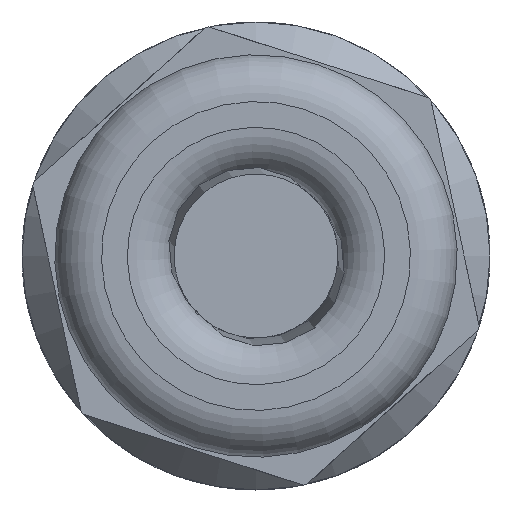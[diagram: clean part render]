
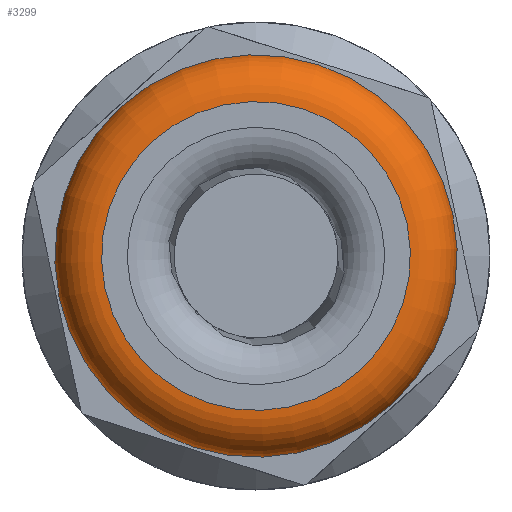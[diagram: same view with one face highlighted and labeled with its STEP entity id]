
A CAD part, left-side view. The second image highlights one B-rep face of the part: STEP entity #3299.
In plain terms, the highlighted toroidal (fillet/blend) face has major radius 3.3 mm and minor radius 1 mm.
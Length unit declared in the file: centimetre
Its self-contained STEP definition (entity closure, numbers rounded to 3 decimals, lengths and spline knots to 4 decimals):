
#637=TOROIDAL_SURFACE('',#3509,0.33,0.1);
#1396=VERTEX_POINT('',#9638);
#1397=VERTEX_POINT('',#9641);
#1508=CIRCLE('',#3508,0.33);
#1509=CIRCLE('',#3510,0.43);
#1880=EDGE_CURVE('',#1396,#1396,#1508,.T.);
#1881=EDGE_CURVE('',#1397,#1397,#1509,.T.);
#2646=ORIENTED_EDGE('',*,*,#1881,.T.);
#2647=ORIENTED_EDGE('',*,*,#1880,.T.);
#2929=EDGE_LOOP('',(#2646));
#2930=EDGE_LOOP('',(#2647));
#3122=FACE_BOUND('',#2929,.T.);
#3123=FACE_BOUND('',#2930,.T.);
#3299=ADVANCED_FACE('',(#3122,#3123),#637,.T.);
#3508=AXIS2_PLACEMENT_3D('',#9637,#4003,#4004);
#3509=AXIS2_PLACEMENT_3D('',#9639,#4005,$);
#3510=AXIS2_PLACEMENT_3D('',#9640,#4006,#4007);
#4003=DIRECTION('',(0.,-1.,0.));
#4004=DIRECTION('',(-0.33,0.,0.));
#4005=DIRECTION('',(0.,1.,0.));
#4006=DIRECTION('',(0.,1.,0.));
#4007=DIRECTION('',(-0.43,0.,0.));
#9637=CARTESIAN_POINT('',(0.,0.65,0.));
#9638=CARTESIAN_POINT('',(0.33,0.65,0.));
#9639=CARTESIAN_POINT('',(0.,0.55,0.));
#9640=CARTESIAN_POINT('',(0.,0.55,0.));
#9641=CARTESIAN_POINT('',(0.43,0.55,0.));
